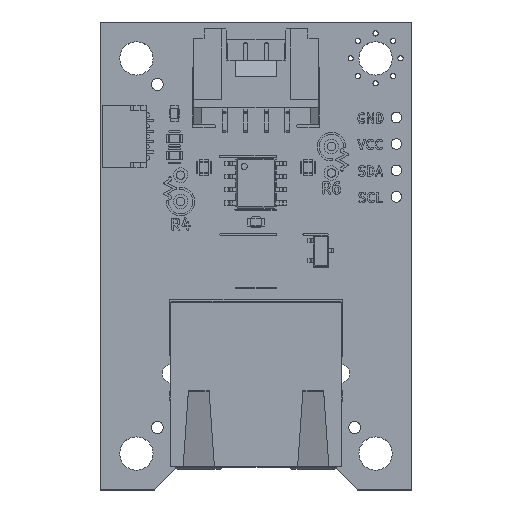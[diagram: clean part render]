
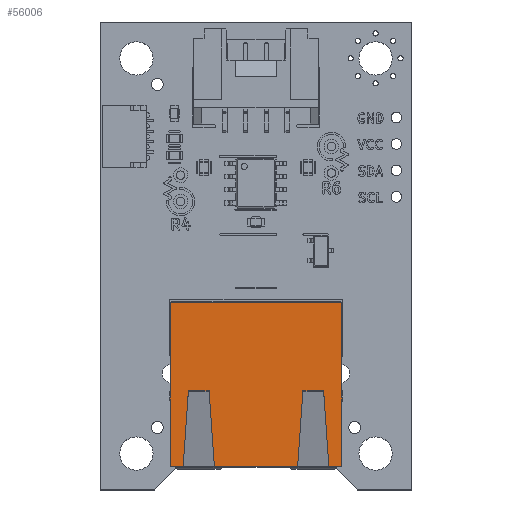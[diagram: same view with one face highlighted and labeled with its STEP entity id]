
A CAD part, top view. The second image highlights one B-rep face of the part: STEP entity #56006.
In plain terms, the highlighted planar face has unit normal (0, 0, 1).
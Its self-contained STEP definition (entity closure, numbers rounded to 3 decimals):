
#55234 = VERTEX_POINT('',#55235);
#55235 = CARTESIAN_POINT('',(11.805,-7.75,13.46));
#55241 = EDGE_CURVE('',#55234,#55242,#55244,.T.);
#55242 = VERTEX_POINT('',#55243);
#55243 = CARTESIAN_POINT('',(11.805,8.,13.46));
#55244 = LINE('',#55245,#55246);
#55245 = CARTESIAN_POINT('',(11.805,-7.75,13.46));
#55246 = VECTOR('',#55247,1.);
#55247 = DIRECTION('',(0.,1.,0.));
#55274 = VERTEX_POINT('',#55275);
#55275 = CARTESIAN_POINT('',(-4.705,-7.75,13.46));
#55281 = EDGE_CURVE('',#55274,#55234,#55282,.T.);
#55282 = LINE('',#55283,#55284);
#55283 = CARTESIAN_POINT('',(-4.705,-7.75,13.46));
#55284 = VECTOR('',#55285,1.);
#55285 = DIRECTION('',(1.,0.,0.));
#55303 = EDGE_CURVE('',#55242,#55304,#55306,.T.);
#55304 = VERTEX_POINT('',#55305);
#55305 = CARTESIAN_POINT('',(10.555,8.,13.46));
#55306 = LINE('',#55307,#55308);
#55307 = CARTESIAN_POINT('',(11.805,8.,13.46));
#55308 = VECTOR('',#55309,1.);
#55309 = DIRECTION('',(-1.,0.,0.));
#55311 = EDGE_CURVE('',#55304,#55312,#55314,.T.);
#55312 = VERTEX_POINT('',#55313);
#55313 = CARTESIAN_POINT('',(7.555,8.,13.46));
#55314 = LINE('',#55315,#55316);
#55315 = CARTESIAN_POINT('',(11.805,8.,13.46));
#55316 = VECTOR('',#55317,1.);
#55317 = DIRECTION('',(-1.,0.,0.));
#55319 = EDGE_CURVE('',#55312,#55320,#55322,.T.);
#55320 = VERTEX_POINT('',#55321);
#55321 = CARTESIAN_POINT('',(-0.455,8.,13.46));
#55322 = LINE('',#55323,#55324);
#55323 = CARTESIAN_POINT('',(11.805,8.,13.46));
#55324 = VECTOR('',#55325,1.);
#55325 = DIRECTION('',(-1.,0.,0.));
#55327 = EDGE_CURVE('',#55320,#55328,#55330,.T.);
#55328 = VERTEX_POINT('',#55329);
#55329 = CARTESIAN_POINT('',(-3.455,8.,13.46));
#55330 = LINE('',#55331,#55332);
#55331 = CARTESIAN_POINT('',(11.805,8.,13.46));
#55332 = VECTOR('',#55333,1.);
#55333 = DIRECTION('',(-1.,0.,0.));
#55335 = EDGE_CURVE('',#55328,#55336,#55338,.T.);
#55336 = VERTEX_POINT('',#55337);
#55337 = CARTESIAN_POINT('',(-4.705,8.,13.46));
#55338 = LINE('',#55339,#55340);
#55339 = CARTESIAN_POINT('',(11.805,8.,13.46));
#55340 = VECTOR('',#55341,1.);
#55341 = DIRECTION('',(-1.,0.,0.));
#56006 = ADVANCED_FACE('',(#56007),#56022,.F.);
#56007 = FACE_BOUND('',#56008,.F.);
#56008 = EDGE_LOOP('',(#56009,#56010,#56011,#56012,#56018,#56019,#56020,
    #56021));
#56009 = ORIENTED_EDGE('',*,*,#55303,.F.);
#56010 = ORIENTED_EDGE('',*,*,#55241,.F.);
#56011 = ORIENTED_EDGE('',*,*,#55281,.F.);
#56012 = ORIENTED_EDGE('',*,*,#56013,.F.);
#56013 = EDGE_CURVE('',#55336,#55274,#56014,.T.);
#56014 = LINE('',#56015,#56016);
#56015 = CARTESIAN_POINT('',(-4.705,8.,13.46));
#56016 = VECTOR('',#56017,1.);
#56017 = DIRECTION('',(0.,-1.,0.));
#56018 = ORIENTED_EDGE('',*,*,#55335,.F.);
#56019 = ORIENTED_EDGE('',*,*,#55327,.F.);
#56020 = ORIENTED_EDGE('',*,*,#55319,.F.);
#56021 = ORIENTED_EDGE('',*,*,#55311,.F.);
#56022 = PLANE('',#56023);
#56023 = AXIS2_PLACEMENT_3D('',#56024,#56025,#56026);
#56024 = CARTESIAN_POINT('',(11.805,8.,13.46));
#56025 = DIRECTION('',(-0.,0.,-1.));
#56026 = DIRECTION('',(1.,0.,-0.));
